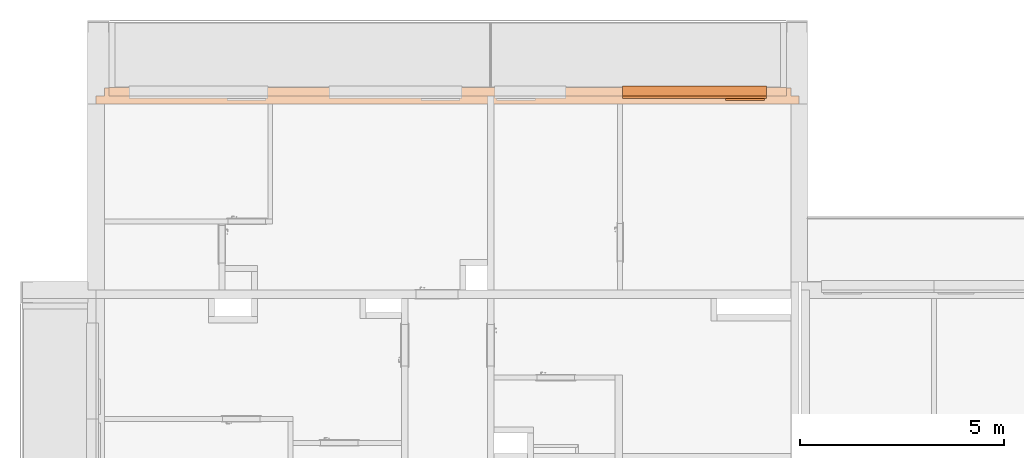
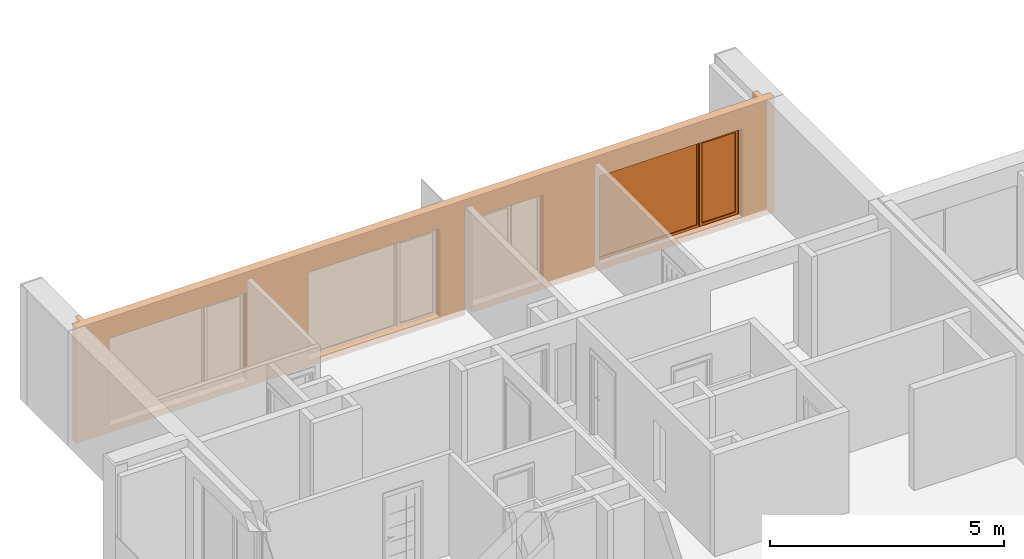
# One storey, part 49 of 66: 1 proxy, 4 openings, plus 1 element that does not belong to this part.
"""IFC2X3 building model written with IfcOpenShell, lengths in millimetres."""

from ifc_helpers import new_model, entity, si_unit, converted_unit, derived_unit, money_unit, direction, frame, origin_with_axes, origin_2d_with_axis, place, context, subcontext, project, spatial, rectangle, extrude, open_shell, faceted_brep, surface_model, source, transform, mapped, material, material_list, type_object, element, fill, save


model = new_model("IFC2X3")

# Units and contexts
model_context = context("Model", 3, precision=0.01, world=origin_with_axes(), true_north=direction((0.34421633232, 0.938890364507)))
body_context = subcontext(model_context, "Body", "Model", "MODEL_VIEW")
ifc_project = project(units=[si_unit("LENGTHUNIT", "METRE", prefix="MILLI"), si_unit("AREAUNIT", "SQUARE_METRE"), si_unit("VOLUMEUNIT", "CUBIC_METRE"), converted_unit("PLANEANGLEUNIT", "DEGREE", entity("IfcPlaneAngleMeasure", 0.0174532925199), si_unit("PLANEANGLEUNIT", "RADIAN"), dimensions=[0, 0, 0, 0, 0, 0, 0]), si_unit("SOLIDANGLEUNIT", "STERADIAN"), money_unit("USD"), converted_unit("TIMEUNIT", "Year", entity("IfcTimeMeasure", 31556926.0), si_unit("TIMEUNIT", "SECOND"), dimensions=[0, 0, 1, 0, 0, 0, 0]), si_unit("MASSUNIT", "GRAM", prefix="KILO"), si_unit("THERMODYNAMICTEMPERATUREUNIT", "DEGREE_CELSIUS"), si_unit("LUMINOUSINTENSITYUNIT", "LUMEN"), si_unit("ENERGYUNIT", "JOULE", prefix="MEGA"), derived_unit("THERMALCONDUCTANCEUNIT", [(si_unit("POWERUNIT", "WATT"), 1), (si_unit("LENGTHUNIT", "METRE"), -1), (si_unit("THERMODYNAMICTEMPERATUREUNIT", "KELVIN"), -1)]), derived_unit("SPECIFICHEATCAPACITYUNIT", [(si_unit("ENERGYUNIT", "JOULE"), 1), (si_unit("MASSUNIT", "GRAM", prefix="KILO"), -1), (si_unit("THERMODYNAMICTEMPERATUREUNIT", "KELVIN"), -1)]), derived_unit("MASSDENSITYUNIT", [(si_unit("MASSUNIT", "GRAM", prefix="KILO"), 1), (si_unit("VOLUMEUNIT", "CUBIC_METRE"), -1)])], contexts=[model_context])

# Site, building, storey
site_placement = place(None, origin_with_axes())
site = spatial("IfcSite", under=ifc_project, at=site_placement, Name="USTRONIE MORSKIE", CompositionType="ELEMENT")
building_placement = place(site_placement, origin_with_axes())
building = spatial("IfcBuilding", under=site, at=building_placement, Name="Budynek", CompositionType="ELEMENT")
storey_placement = place(building_placement, frame((0.0, 0.0, 10000.0), z_axis=(0.0, 0.0, 1.0), x_axis=(1.0, 0.0, 0.0)))
storey = spatial("IfcBuildingStorey", under=building, at=storey_placement, Name="PIĘTRO 3", CompositionType="ELEMENT", Elevation=10000.0)

# Proxies, openings
ifc_material_1 = material(Name="Tynk zewnętrzny")
ifc_material_2 = material(Name="Wełna ELEW")
ifc_material_3 = material(Name="Beton konstrukcyjny B25")
ifc_material_list = material_list([ifc_material_1, ifc_material_2, ifc_material_3])
building_element_proxy_type_1 = type_object("IfcBuildingElementProxyType", Name="20+20 410", PredefinedType="NOTDEFINED")
proxy_1_placement = place(storey_placement, frame((350067.920919, 749451.199036, -160.0), z_axis=(0.0, 0.0, 1.0), x_axis=(1.0, 0.0, 0.0)))
proxy_1 = element("IfcBuildingElementProxy", 1, at=proxy_1_placement, inside=storey, type_object=building_element_proxy_type_1, material=ifc_material_list, Name="SZ-01", context=body_context, shape_type="Brep", body=[
    faceted_brep([(200.0, 300.0, 0.0), (200.0, 310.0, 0.0), (210.132928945, 310.0, 0.0), (210.132837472, 299.997991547, 2.27125624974e-05), (200.0, 300.0, 3000.0), (200.0, 310.0, 3000.0), (209.867070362, 310.0, 2999.9999951), (209.867070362, 310.0, 2789.99999183), (16789.8670711, 309.997397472, 2789.99999183), (16789.8670711, 309.99788162, 2800.00001425), (16789.8670711, 310.0, 2999.9999951), (16800.0, 310.0, 3000.0), (16800.0, 310.0, 0.0), (16790.1329296, 310.0, 0.0), (16790.1329296, 310.0, 9.99999626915), (210.132928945, 310.0, 9.9999962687), (210.132837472, 299.997970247, 9.99999623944), (16790.1328382, 300.0, 9.99999623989), (16790.1328382, 300.0, 0.0), (16800.0, 300.0, 0.0), (16800.0, 300.0, 3000.0), (16789.8671625, 299.997991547, 3000.00002271), (16789.8671625, 300.0, 2800.00001286), (209.867161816, 300.0, 2800.00001288), (209.867161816, 300.0, 2999.99999495), (209.867071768, 309.846250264, 2800.00001425), (209.867071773, 309.845766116, 2789.99999183)], [[[0, 1, 2, 3]], [[0, 4, 5, 1]], [[6, 7, 8, 9, 10, 11, 12, 13, 14, 15, 2, 1, 5]], [[16, 3, 2, 15]], [[4, 0, 3, 16, 17, 18, 19, 20, 21, 22, 23, 24]], [[4, 24, 6, 5]], [[25, 26, 7, 6, 24, 23]], [[7, 26, 8]], [[26, 25, 9, 8]], [[9, 22, 21, 10]], [[10, 21, 20, 11]], [[20, 19, 12, 11]], [[18, 13, 12, 19]], [[18, 17, 14, 13]], [[17, 16, 15, 14]], [[25, 23, 22, 9]]]),
    faceted_brep([(16789.8680771, 199.997967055, 2799.99999896), (16789.8689916, 99.9979946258, 2799.99999896), (16789.8689916, 99.9979946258, 3000.00002048), (16789.8680771, 199.997967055, 3000.00002048), (16789.8671625, 299.997991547, 3000.00002271), (16789.8671625, 300.0, 2800.00001286), (209.868077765, 199.846335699, 2799.99999896), (209.868990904, 100.0, 2799.99999896), (209.868990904, 100.0, 3000.00002048), (100.0, 100.0, 3000.0), (100.0, 100.0, 0.0), (16900.0, 100.0, 0.0), (16900.0, 100.0, 3000.0), (16900.0, 300.0, 3000.0), (209.867161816, 300.0, 3000.00002271), (209.867161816, 300.0, 2800.00001288), (16900.0, 300.0, 0.0), (16790.1328382, 300.0, -5.04920549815e-06), (16790.1328382, 300.0, 9.99999623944), (210.13283749, 300.0, 9.99999623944), (210.132837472, 299.997970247, -5.05150943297e-06), (100.0, 300.0, 0.0), (100.0, 300.0, 3000.0), (209.868077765, 199.846335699, 3000.00002048), (16790.1328368, 299.846338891, -5.05150943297e-06), (16790.1328368, 299.846338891, 9.99999623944)], [[[0, 1, 2, 3, 4, 5]], [[0, 6, 7, 1]], [[7, 8, 9, 10, 11, 12, 2, 1]], [[3, 2, 12, 13, 4]], [[14, 15, 5, 4, 13, 16, 17, 18, 19, 20, 21, 22]], [[6, 0, 5, 15]], [[23, 8, 7, 6, 15, 14]], [[8, 23, 14, 22, 9]], [[10, 9, 22, 21]], [[21, 20, 24, 17, 16, 11, 10]], [[13, 12, 11, 16]], [[24, 25, 18, 17]], [[25, 19, 18]], [[19, 25, 24, 20]]]),
    faceted_brep([(9469.99997834, 100.0, 2800.0), (9469.99997834, 100.0, 0.0), (-100.0, 100.0, 0.0), (-100.0, 100.0, 3000.0), (17100.0, 100.0, 3000.0), (17100.0, 100.0, 0.0), (9629.99997834, 100.0, 0.0), (9629.99997834, 100.0, 2800.0), (9469.99997834, -100.0, 2800.0), (9469.99997834, -100.0, 0.0), (-100.0, -100.0, 0.0), (-100.0, -100.0, 3000.0), (17100.0, -100.0, 3000.0), (17100.0, -100.0, 0.0), (9629.99997834, -100.0, 0.0), (9629.99997834, -100.0, 2800.0)], [[[0, 1, 2, 3, 4, 5, 6, 7]], [[1, 0, 8, 9]], [[1, 9, 10, 2]], [[10, 11, 3, 2]], [[12, 4, 3, 11]], [[4, 12, 13, 5]], [[14, 6, 5, 13]], [[7, 6, 14, 15]], [[0, 7, 15, 8]], [[15, 14, 13, 12, 11, 10, 9, 8]]]),
])
opening_1_placement = place(proxy_1_placement, frame((2400.0, 0.0, 160.0), z_axis=(0.0, 0.0, 1.0), x_axis=(1.0, 0.0, 0.0)))
element("IfcOpeningElement", 2, at=opening_1_placement, cuts=proxy_1, Name="Wz.02", context=body_context, shape_type="SweptSolid", body=[
    extrude(rectangle(XDim=3400.0, YDim=2300.0, at=origin_2d_with_axis()), frame((0.0, 99.9999999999, 1150.0), z_axis=(0.0, 1.0, 0.0), x_axis=(1.0, 0.0, 0.0)), (0.0, 0.0, 1.0), 620.0),
    extrude(rectangle(XDim=3400.0, YDim=2300.0, at=origin_2d_with_axis()), frame((0.0, 100.0, 1150.0), z_axis=(0.0, -1.0, 0.0), x_axis=(1.0, 0.0, 0.0)), (0.0, 0.0, 1.0), 610.0),
])
opening_2_placement = place(proxy_1_placement, frame((7224.99942067, 0.0, 160.0), z_axis=(0.0, 0.0, 1.0), x_axis=(1.0, 0.0, 0.0)))
element("IfcOpeningElement", 3, at=opening_2_placement, cuts=proxy_1, Name="Wz.02", context=body_context, shape_type="SweptSolid", body=[
    extrude(rectangle(XDim=3249.99884135, YDim=2300.0, at=origin_2d_with_axis()), frame((0.0, 99.9999999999, 1150.0), z_axis=(0.0, 1.0, 0.0), x_axis=(1.0, 0.0, 0.0)), (0.0, 0.0, 1.0), 620.0),
    extrude(rectangle(XDim=3249.99884135, YDim=2300.0, at=origin_2d_with_axis()), frame((0.0, 100.0, 1150.0), z_axis=(0.0, -1.0, 0.0), x_axis=(1.0, 0.0, 0.0)), (0.0, 0.0, 1.0), 610.0),
])
opening_3_placement = place(proxy_1_placement, frame((10525.0, 0.0, 160.0), z_axis=(0.0, 0.0, 1.0), x_axis=(1.0, 0.0, 0.0)))
element("IfcOpeningElement", 4, at=opening_3_placement, cuts=proxy_1, Name="Wz.01", context=body_context, shape_type="SweptSolid", body=[
    extrude(rectangle(XDim=1750.0, YDim=2300.0, at=origin_2d_with_axis()), frame((0.0, 99.9999999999, 1150.0), z_axis=(0.0, -1.0, 0.0), x_axis=(-1.0, 0.0, 0.0)), (0.0, 0.0, -1.0), 620.0),
    extrude(rectangle(XDim=1750.0, YDim=2300.0, at=origin_2d_with_axis()), frame((0.0, 100.0, 1150.0), z_axis=(0.0, 1.0, 0.0), x_axis=(-1.0, 0.0, 0.0)), (0.0, 0.0, -1.0), 610.0),
])
opening_4_placement = place(proxy_1_placement, frame((14539.9999774, 0.0, 160.0), z_axis=(0.0, 0.0, 1.0), x_axis=(1.0, 0.0, 0.0)))
opening_4 = element("IfcOpeningElement", 5, at=opening_4_placement, cuts=proxy_1, Name="Wz.02", context=body_context, shape_type="SweptSolid", body=[
    extrude(rectangle(XDim=3520.00004519, YDim=2300.0, at=origin_2d_with_axis()), frame((0.0, 99.9999999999, 1150.0), z_axis=(0.0, 1.0, 0.0), x_axis=(1.0, 0.0, 0.0)), (0.0, 0.0, 1.0), 620.0),
    extrude(rectangle(XDim=3520.00004519, YDim=2300.0, at=origin_2d_with_axis()), frame((0.0, 100.0, 1150.0), z_axis=(0.0, -1.0, 0.0), x_axis=(1.0, 0.0, 0.0)), (0.0, 0.0, 1.0), 610.0),
])
building_element_proxy_type_2 = type_object("IfcBuildingElementProxyType", Name="Okno podwójne 23", PredefinedType="NOTDEFINED")
shared_shape = source(origin_with_axes(), body_context, "Body", "SurfaceModel", [
    faceted_brep([(1760.00002259, -65.0, 5.0), (1760.00002259, -65.0, 30.0), (1760.00002259, -275.0, 30.0), (1760.00002259, -275.0, 5.0), (-1760.00002259, -65.0, 5.0), (-1760.00002259, -65.0, 30.0), (-1760.00002259, -275.0, 30.0), (-1760.00002259, -305.0, 30.0), (1760.00002259, -305.0, 30.0), (1760.00002259, -305.0, 5.0), (-1760.00002259, -305.0, 5.0), (-1760.00002259, -275.0, 5.0)], [[[0, 1, 2, 3]], [[4, 5, 1, 0]], [[1, 5, 6, 7, 8, 2]], [[3, 2, 8, 9]], [[0, 3, 9, 10, 11, 4]], [[11, 6, 5, 4]], [[10, 7, 6, 11]], [[9, 8, 7, 10]]]),
    faceted_brep([(1760.00002259, -65.0, 0.0), (1760.00002259, -65.0, 5.0), (1760.00002259, -275.0, 5.0), (1760.00002259, -275.0, 0.0), (-1760.00002259, -65.0, 0.0), (-1760.00002259, -65.0, 5.0), (-1760.00002259, -275.0, 5.0), (-1760.00002259, -275.0, 0.0)], [[[0, 1, 2, 3]], [[4, 5, 1, 0]], [[1, 5, 6, 2]], [[3, 2, 6, 7]], [[0, 3, 7, 4]], [[7, 6, 5, 4]]]),
    faceted_brep([(-1690.00002259, -25.0, 2230.0), (-1715.00002259, -25.0, 2230.0), (-1715.00002259, 0.0, 2230.0), (-1760.00002259, 0.0, 2230.0), (-1760.00002259, -65.0, 2230.0), (-1690.00002259, -65.0, 2230.0), (-1690.00002259, -25.0, 70.0), (-1715.00002259, -25.0, 70.0), (-1715.00002259, 0.0, 70.0), (-1760.00002259, 0.0, 70.0), (-1760.00002259, -65.0, 70.0), (-1690.00002259, -65.0, 70.0)], [[[0, 1, 2, 3, 4, 5]], [[1, 0, 6, 7]], [[8, 2, 1, 7]], [[2, 8, 9, 3]], [[9, 10, 4, 3]], [[10, 11, 5, 4]], [[6, 0, 5, 11]], [[7, 6, 11, 10, 9, 8]]]),
    faceted_brep([(-762.500022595, 0.0, 2230.0), (-762.500022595, -25.0, 2230.0), (-787.500022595, -25.0, 2230.0), (-787.500022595, -65.0, 2230.0), (-722.500022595, -65.0, 2230.0), (-722.500022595, 0.0, 2230.0), (-762.500022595, 0.0, 70.0), (-762.500022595, -25.0, 70.0), (-787.500022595, -25.0, 70.0), (-787.500022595, -65.0, 70.0), (-722.500022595, -65.0, 70.0), (-722.500022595, 0.0, 70.0)], [[[0, 1, 2, 3, 4, 5]], [[1, 0, 6, 7]], [[8, 2, 1, 7]], [[2, 8, 9, 3]], [[9, 10, 4, 3]], [[5, 4, 10, 11]], [[6, 0, 5, 11]], [[7, 6, 11, 10, 9, 8]]]),
    faceted_brep([(-1690.00002259, -25.0, 70.0), (-1715.00002259, -25.0, 70.0), (-1715.00002259, 0.0, 70.0), (-1760.00002259, 0.0, 70.0), (-1760.00002259, -65.0, 70.0), (-1690.00002259, -65.0, 70.0), (-787.500022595, -25.0, 70.0), (-762.500022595, -25.0, 70.0), (-762.500022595, -25.0, 45.0), (-1715.00002259, -25.0, 45.0), (-1715.00002259, 0.0, 45.0), (-762.500022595, 0.0, 45.0), (-762.500022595, 0.0, 70.0), (-722.500022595, 0.0, 70.0), (1690.00002259, 0.0, 70.0), (1760.00002259, 0.0, 70.0), (1760.00002259, 0.0, 0.0), (-1760.00002259, 0.0, 0.0), (-1760.00002259, -65.0, 0.0), (1760.00002259, -65.0, 70.0), (1690.00002259, -65.0, 70.0), (-722.500022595, -65.0, 70.0), (-787.500022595, -65.0, 70.0), (1760.00002259, -65.0, 0.0)], [[[0, 1, 2, 3, 4, 5]], [[1, 0, 6, 7, 8, 9]], [[10, 2, 1, 9]], [[11, 12, 13, 14, 15, 16, 17, 3, 2, 10]], [[17, 18, 4, 3]], [[19, 20, 21, 22, 5, 4, 18, 23]], [[6, 0, 5, 22]], [[7, 6, 22, 21, 13, 12]], [[7, 12, 11, 8]], [[11, 10, 9, 8]], [[13, 21, 20, 14]], [[14, 20, 19, 15]], [[15, 19, 23, 16]], [[16, 23, 18, 17]]]),
    faceted_brep([(-762.500022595, 0.0, 2230.0), (-762.500022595, 0.0, 2255.0), (-1715.00002259, 0.0, 2255.0), (-1715.00002259, 0.0, 2230.0), (-1760.00002259, 0.0, 2230.0), (-1760.00002259, 0.0, 2300.0), (1760.00002259, 0.0, 2300.0), (1760.00002259, 0.0, 2230.0), (1690.00002259, 0.0, 2230.0), (-722.500022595, 0.0, 2230.0), (-762.500022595, -25.0, 2230.0), (-762.500022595, -25.0, 2255.0), (-1715.00002259, -25.0, 2255.0), (-1715.00002259, -25.0, 2230.0), (-1690.00002259, -25.0, 2230.0), (-1690.00002259, -65.0, 2230.0), (-1760.00002259, -65.0, 2230.0), (-1760.00002259, -65.0, 2300.0), (1760.00002259, -65.0, 2300.0), (1760.00002259, -65.0, 2230.0), (1690.00002259, -65.0, 2230.0), (-722.500022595, -65.0, 2230.0), (-787.500022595, -65.0, 2230.0), (-787.500022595, -25.0, 2230.0)], [[[0, 1, 2, 3, 4, 5, 6, 7, 8, 9]], [[1, 0, 10, 11]], [[2, 1, 11, 12]], [[3, 2, 12, 13]], [[13, 14, 15, 16, 4, 3]], [[4, 16, 17, 5]], [[5, 17, 18, 6]], [[6, 18, 19, 7]], [[7, 19, 20, 8]], [[8, 20, 21, 9]], [[10, 0, 9, 21, 22, 23]], [[14, 13, 12, 11, 10, 23]], [[14, 23, 22, 15]], [[22, 21, 20, 19, 18, 17, 16, 15]]]),
    faceted_brep([(1690.00002259, -65.0, 2230.0), (1760.00002259, -65.0, 2230.0), (1760.00002259, 0.0, 2230.0), (1690.00002259, 0.0, 2230.0), (1690.00002259, -65.0, 70.0), (1760.00002259, -65.0, 70.0), (1760.00002259, 0.0, 70.0), (1690.00002259, 0.0, 70.0)], [[[0, 1, 2, 3]], [[0, 4, 5, 1]], [[1, 5, 6, 2]], [[3, 2, 6, 7]], [[4, 0, 3, 7]], [[5, 4, 7, 6]]]),
    surface_model("IfcShellBasedSurfaceModel", [(1690.00002259, -35.0, 70.0), (1690.00002259, -35.0, 2230.0), (-722.500022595, -35.0, 2230.0), (-722.500022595, -35.0, 70.0)], [open_shell([[[0, 1, 2, 3]]])]),
    surface_model("IfcShellBasedSurfaceModel", [(1690.00002259, -15.0, 70.0), (-722.500022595, -15.0, 70.0), (-722.500022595, -15.0, 2230.0), (1690.00002259, -15.0, 2230.0)], [open_shell([[[0, 1, 2, 3]]])]),
    faceted_brep([(-827.500022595, -25.0, 2190.0), (-762.500022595, -25.0, 2190.0), (-762.500022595, 40.0, 2190.0), (-827.500022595, 40.0, 2190.0), (-827.500022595, -25.0, 110.0), (-762.500022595, -25.0, 110.0), (-762.500022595, 40.0, 110.0), (-827.500022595, 40.0, 110.0)], [[[0, 1, 2, 3]], [[0, 4, 5, 1]], [[1, 5, 6, 2]], [[3, 2, 6, 7]], [[4, 0, 3, 7]], [[5, 4, 7, 6]]]),
    faceted_brep([(-1650.00002259, -25.0, 110.0), (-1715.00002259, -25.0, 110.0), (-1715.00002259, 40.0, 110.0), (-1650.00002259, 40.0, 110.0), (-1650.00002259, -25.0, 2190.0), (-1715.00002259, -25.0, 2190.0), (-1715.00002259, 40.0, 2190.0), (-1650.00002259, 40.0, 2190.0)], [[[0, 1, 2, 3]], [[0, 4, 5, 1]], [[1, 5, 6, 2]], [[3, 2, 6, 7]], [[4, 0, 3, 7]], [[5, 4, 7, 6]]]),
    faceted_brep([(-1715.00002259, -25.0, 45.0), (-1715.00002259, -25.0, 110.0), (-1715.00002259, 40.0, 110.0), (-1715.00002259, 40.0, 45.0), (-762.500022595, -25.0, 45.0), (-762.500022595, -25.0, 110.0), (-827.500022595, -25.0, 110.0), (-1650.00002259, -25.0, 110.0), (-1650.00002259, 40.0, 110.0), (-827.500022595, 40.0, 110.0), (-762.500022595, 40.0, 110.0), (-762.500022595, 40.0, 45.0)], [[[0, 1, 2, 3]], [[0, 4, 5, 6, 7, 1]], [[1, 7, 8, 2]], [[3, 2, 8, 9, 10, 11]], [[4, 0, 3, 11]], [[5, 4, 11, 10]], [[6, 5, 10, 9]], [[7, 6, 9, 8]]]),
    faceted_brep([(-762.500022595, -25.0, 2255.0), (-762.500022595, -25.0, 2190.0), (-762.500022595, 40.0, 2190.0), (-762.500022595, 40.0, 2255.0), (-1715.00002259, -25.0, 2255.0), (-1715.00002259, -25.0, 2190.0), (-1650.00002259, -25.0, 2190.0), (-827.500022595, -25.0, 2190.0), (-827.500022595, 40.0, 2190.0), (-1650.00002259, 40.0, 2190.0), (-1715.00002259, 40.0, 2190.0), (-1715.00002259, 40.0, 2255.0)], [[[0, 1, 2, 3]], [[0, 4, 5, 6, 7, 1]], [[1, 7, 8, 2]], [[3, 2, 8, 9, 10, 11]], [[4, 0, 3, 11]], [[5, 4, 11, 10]], [[6, 5, 10, 9]], [[7, 6, 9, 8]]]),
    surface_model("IfcShellBasedSurfaceModel", [(-827.500022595, -2.5, 110.0), (-827.500022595, -2.5, 2190.0), (-1650.00002259, -2.5, 2190.0), (-1650.00002259, -2.5, 110.0)], [open_shell([[[0, 1, 2, 3]]])]),
    surface_model("IfcShellBasedSurfaceModel", [(-827.500022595, 17.5, 110.0), (-1650.00002259, 17.5, 110.0), (-1650.00002259, 17.5, 2190.0), (-827.500022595, 17.5, 2190.0)], [open_shell([[[0, 1, 2, 3]]])]),
])
proxy_2_placement = place(opening_4_placement, frame((1760.00002259, 0.0, 0.0), z_axis=(0.0, 0.0, 1.0), x_axis=(-1.0, 0.0, 0.0)))
proxy_2 = element("IfcBuildingElementProxy", 6, at=proxy_2_placement, inside=storey, type_object=building_element_proxy_type_2, Name="Wz.02", context=body_context, shape_type="MappedRepresentation", body=[
    mapped(shared_shape, transform((1760.00002259, -35.0, 0.0))),
])
fill(opening_4, proxy_2)

save(model, "model.ifc")
